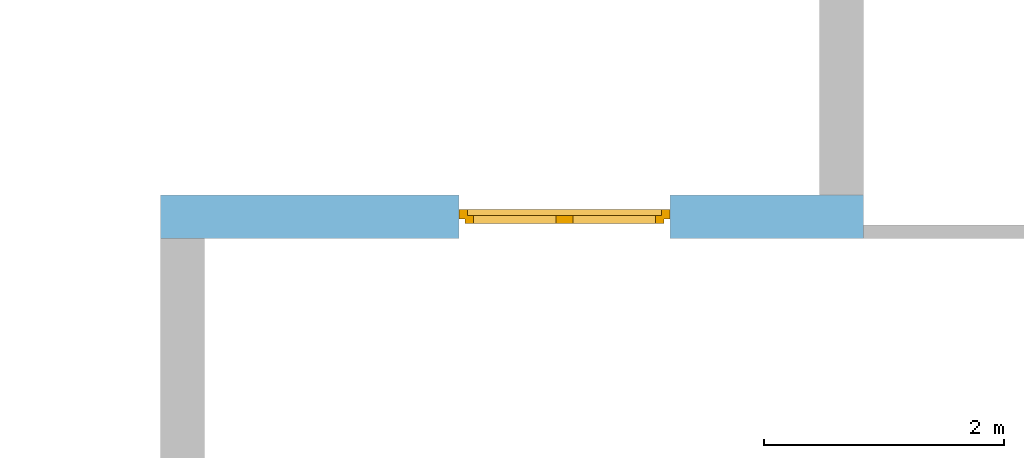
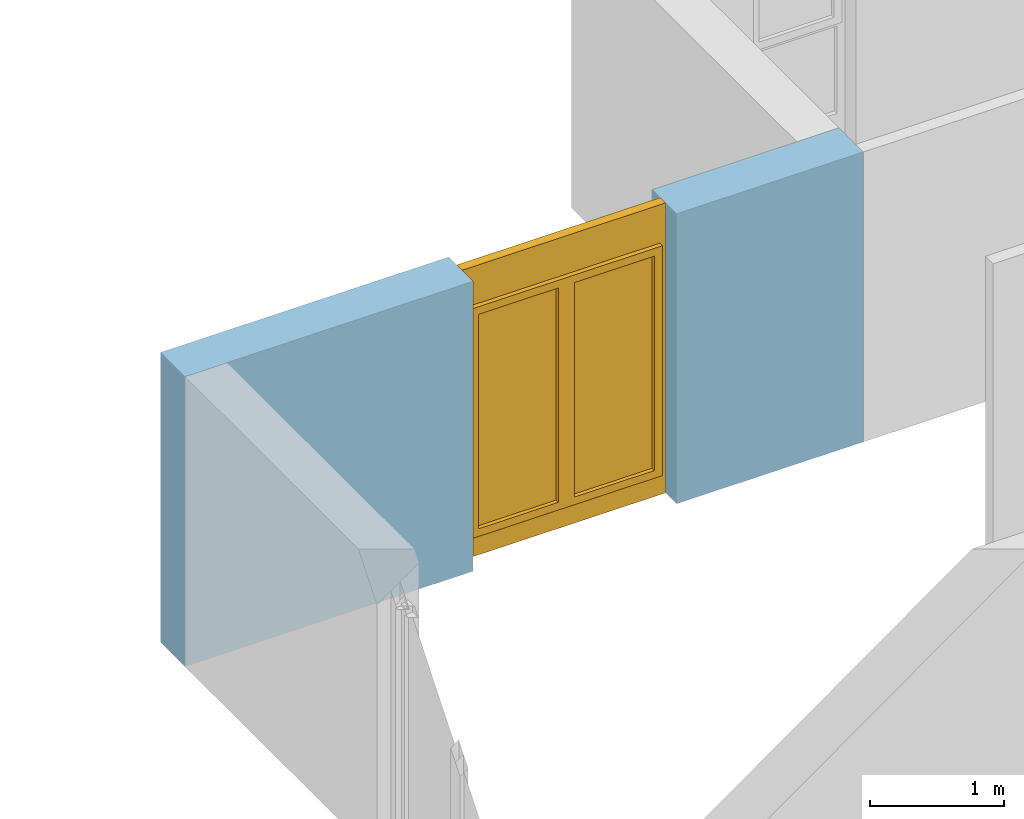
# One storey, part 17 of 42: 1 window, 1 opening, plus 1 element that does not belong to this part.
"""IFC2X3 building model written with IfcOpenShell, lengths in millimetres."""

from ifc_helpers import new_model, entity, si_unit, converted_unit, frame, frame_2d, origin, origin_with_axes, place, context, subcontext, project, spatial, rectangle, extrude, faceted_brep, material, layer, layer_set, layer_usage, type_object, element, fill, save


model = new_model("IFC2X3")

# Units and contexts
model_context = context("Model", 3, precision=1e-05, world=origin())
body_context = subcontext(model_context, "Body", "Model", "MODEL_VIEW")
ifc_project = project(units=[si_unit("LENGTHUNIT", "METRE", prefix="MILLI"), converted_unit("PLANEANGLEUNIT", "DEGREE", entity("IfcPlaneAngleMeasure", 0.0174532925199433), si_unit("PLANEANGLEUNIT", "RADIAN"), dimensions=[0, 0, 0, 0, 0, 0, 0]), si_unit("AREAUNIT", "SQUARE_METRE"), si_unit("VOLUMEUNIT", "CUBIC_METRE")], contexts=[model_context])

# Building, storey
building_placement = place(None, origin())
building = spatial("IfcBuilding", under=ifc_project, at=building_placement, Name="Gebäude", CompositionType="ELEMENT")
storey_placement = place(building_placement, frame((0.0, 0.0, 2730.0), z_axis=(0.0, 0.0, 1.0), x_axis=(1.0, 0.0, 0.0)))
storey = spatial("IfcBuildingStorey", under=building, at=storey_placement, Name="OG.- Grundriss", CompositionType="ELEMENT", Elevation=2730.0)

# Wall, opening, window
ifc_material_1 = material(Name="Poroton")
ifc_layer = layer(ifc_material_1, 365.0000000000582)
ifc_layer_set = layer_set([ifc_layer])
ifc_layer_usage = layer_usage(ifc_layer_set, "AXIS2", "POSITIVE", 0.0)
wall_placement = place(storey_placement, frame((154222.7928067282, 136274.8877324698, 0.0), z_axis=(0.0, 0.0, 1.0), x_axis=(-1.0, 0.0, 0.0)))
wall = element("IfcWallStandardCase", 1, at=wall_placement, inside=storey, material=ifc_layer_usage, Name="<Unnamed Element>", context=body_context, shape_type="SweptSolid", body=[
    extrude(rectangle(XDim=5865.0, YDim=365.0000000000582, at=frame_2d((2932.5, 182.5000000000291), x_axis=(1.0, 0.0))), origin_with_axes(), (0.0, 0.0, 1.0), 2650.0),
])
opening_placement = place(wall_placement, frame((1615.0, 0.0, 0.0), z_axis=(0.0, 1.0, 0.0), x_axis=(0.0, 0.0, 1.0)))
opening = element("IfcOpeningElement", 2, at=opening_placement, cuts=wall, Name="Fensteröffnung", ObjectType="Opening", context=body_context, shape_type="SweptSolid", body=[
    extrude(rectangle(XDim=2650.0, YDim=1760.0, at=frame_2d((1325.0, 880.0), x_axis=(1.0, 0.0))), origin_with_axes(), (0.0, 0.0, 1.0), 365.0000000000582),
])
ifc_material_2 = material()
window_style = type_object("IfcWindowStyle", Name="Fenster", ConstructionType="NOTDEFINED", OperationType="USERDEFINED", ParameterTakesPrecedence=False, Sizeable=False)
window_placement = place(opening_placement, frame((0.0, 0.0, 0.0), z_axis=(1.0, 0.0, 0.0), x_axis=(0.0, 1.0, 0.0)))
window = element("IfcWindow", 3, at=window_placement, inside=storey, type_object=window_style, material=ifc_material_2, Name="Fenster", OverallHeight=2650.0, OverallWidth=1760.0, context=body_context, shape_type="Brep", body=[
    faceted_brep([(9.797174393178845e-15, 200.0000000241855, 2650.0), (9.797174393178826e-15, 200.0000000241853, -2.449293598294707e-15), (69.99999999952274, 200.0000000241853, -2.449293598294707e-15), (69.99999999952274, 200.0000000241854, 2650.0), (0.0, 120.0000000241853, 2.449293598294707e-15), (1.914360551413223e-29, 120.0000000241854, 2650.0), (69.99999999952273, 120.0000000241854, 2650.0), (69.99999999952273, 120.0000000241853, 2.449293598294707e-15), (9.797174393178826e-15, 200.0000000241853, -2.449293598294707e-15), (9.797174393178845e-15, 200.0000000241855, 2650.0), (1.914360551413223e-29, 120.0000000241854, 2650.0), (0.0, 120.0000000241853, 2.449293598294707e-15), (69.99999999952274, 200.0000000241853, -2.449293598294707e-15), (9.797174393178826e-15, 200.0000000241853, -2.449293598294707e-15), (0.0, 120.0000000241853, 2.449293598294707e-15), (69.99999999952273, 120.0000000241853, 2.449293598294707e-15), (69.99999999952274, 200.0000000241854, 2650.0), (69.99999999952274, 200.0000000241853, -2.449293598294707e-15), (69.99999999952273, 120.0000000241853, 2.449293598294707e-15), (69.99999999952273, 120.0000000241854, 2650.0), (9.797174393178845e-15, 200.0000000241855, 2650.0), (69.99999999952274, 200.0000000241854, 2650.0), (69.99999999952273, 120.0000000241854, 2650.0), (1.914360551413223e-29, 120.0000000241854, 2650.0)], [[[0, 1, 2, 3]], [[4, 5, 6, 7]], [[8, 9, 10, 11]], [[12, 13, 14, 15]], [[16, 17, 18, 19]], [[20, 21, 22, 23]]], orient=[[False], [False], [False], [False], [False], [False]]),
    faceted_brep([(1690.000000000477, 200.0000000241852, 2650.0), (1690.000000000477, 200.0000000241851, -2.449293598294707e-15), (1760.0, 200.0000000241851, -2.449293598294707e-15), (1760.0, 200.0000000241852, 2650.0), (1690.000000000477, 120.0000000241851, 2.449293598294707e-15), (1690.000000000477, 120.0000000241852, 2650.0), (1760.0, 120.0000000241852, 2650.0), (1760.0, 120.0000000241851, 2.449293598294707e-15), (1690.000000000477, 200.0000000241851, -2.449293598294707e-15), (1690.000000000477, 200.0000000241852, 2650.0), (1690.000000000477, 120.0000000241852, 2650.0), (1690.000000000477, 120.0000000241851, 2.449293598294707e-15), (1760.0, 200.0000000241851, -2.449293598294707e-15), (1690.000000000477, 200.0000000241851, -2.449293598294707e-15), (1690.000000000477, 120.0000000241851, 2.449293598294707e-15), (1760.0, 120.0000000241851, 2.449293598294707e-15), (1760.0, 200.0000000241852, 2650.0), (1760.0, 200.0000000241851, -2.449293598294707e-15), (1760.0, 120.0000000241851, 2.449293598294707e-15), (1760.0, 120.0000000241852, 2650.0), (1690.000000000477, 200.0000000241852, 2650.0), (1760.0, 200.0000000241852, 2650.0), (1760.0, 120.0000000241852, 2650.0), (1690.000000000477, 120.0000000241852, 2650.0)], [[[0, 1, 2, 3]], [[4, 5, 6, 7]], [[8, 9, 10, 11]], [[12, 13, 14, 15]], [[16, 17, 18, 19]], [[20, 21, 22, 23]]], orient=[[False], [False], [False], [False], [False], [False]]),
    faceted_brep([(69.99999999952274, 200.0000000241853, 220.0), (69.99999999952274, 200.0000000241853, -2.449293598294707e-15), (1690.000000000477, 200.0000000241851, -2.449293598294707e-15), (1690.000000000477, 200.0000000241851, 220.0), (69.99999999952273, 120.0000000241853, 2.449293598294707e-15), (69.99999999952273, 120.0000000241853, 220.0), (1690.000000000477, 120.0000000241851, 220.0), (1690.000000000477, 120.0000000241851, 2.449293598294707e-15), (69.99999999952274, 200.0000000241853, -2.449293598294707e-15), (69.99999999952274, 200.0000000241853, 220.0), (69.99999999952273, 120.0000000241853, 220.0), (69.99999999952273, 120.0000000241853, 2.449293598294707e-15), (1690.000000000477, 200.0000000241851, -2.449293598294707e-15), (69.99999999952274, 200.0000000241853, -2.449293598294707e-15), (69.99999999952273, 120.0000000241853, 2.449293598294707e-15), (1690.000000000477, 120.0000000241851, 2.449293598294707e-15), (1690.000000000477, 200.0000000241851, 220.0), (1690.000000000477, 200.0000000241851, -2.449293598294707e-15), (1690.000000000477, 120.0000000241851, 2.449293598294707e-15), (1690.000000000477, 120.0000000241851, 220.0), (69.99999999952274, 200.0000000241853, 220.0), (1690.000000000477, 200.0000000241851, 220.0), (1690.000000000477, 120.0000000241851, 220.0), (69.99999999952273, 120.0000000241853, 220.0)], [[[0, 1, 2, 3]], [[4, 5, 6, 7]], [[8, 9, 10, 11]], [[12, 13, 14, 15]], [[16, 17, 18, 19]], [[20, 21, 22, 23]]], orient=[[False], [False], [False], [False], [False], [False]]),
    faceted_brep([(69.99999999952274, 200.0000000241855, 2650.0), (69.99999999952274, 200.0000000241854, 2280.0), (1690.000000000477, 200.0000000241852, 2280.0), (1690.000000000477, 200.0000000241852, 2650.0), (69.99999999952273, 120.0000000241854, 2280.0), (69.99999999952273, 120.0000000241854, 2650.0), (1690.000000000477, 120.0000000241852, 2650.0), (1690.000000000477, 120.0000000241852, 2280.0), (69.99999999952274, 200.0000000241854, 2280.0), (69.99999999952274, 200.0000000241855, 2650.0), (69.99999999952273, 120.0000000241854, 2650.0), (69.99999999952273, 120.0000000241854, 2280.0), (1690.000000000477, 200.0000000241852, 2280.0), (69.99999999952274, 200.0000000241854, 2280.0), (69.99999999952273, 120.0000000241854, 2280.0), (1690.000000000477, 120.0000000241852, 2280.0), (1690.000000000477, 200.0000000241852, 2650.0), (1690.000000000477, 200.0000000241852, 2280.0), (1690.000000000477, 120.0000000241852, 2280.0), (1690.000000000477, 120.0000000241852, 2650.0), (69.99999999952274, 200.0000000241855, 2650.0), (1690.000000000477, 200.0000000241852, 2650.0), (1690.000000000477, 120.0000000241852, 2650.0), (69.99999999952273, 120.0000000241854, 2650.0)], [[[0, 1, 2, 3]], [[4, 5, 6, 7]], [[8, 9, 10, 11]], [[12, 13, 14, 15]], [[16, 17, 18, 19]], [[20, 21, 22, 23]]], orient=[[False], [False], [False], [False], [False], [False]]),
    faceted_brep([(49.99999999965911, 240.0000000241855, 2300.0), (49.99999999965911, 240.0000000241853, 200.0), (119.9999999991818, 240.0000000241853, 200.0), (119.9999999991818, 240.0000000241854, 2300.0), (49.9999999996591, 170.0000000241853, 200.0), (49.9999999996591, 170.0000000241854, 2300.0), (119.9999999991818, 170.0000000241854, 2300.0), (119.9999999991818, 170.0000000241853, 200.0), (49.99999999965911, 240.0000000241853, 200.0), (49.99999999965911, 240.0000000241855, 2300.0), (49.9999999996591, 170.0000000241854, 2300.0), (49.9999999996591, 170.0000000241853, 200.0), (119.9999999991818, 240.0000000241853, 200.0), (49.99999999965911, 240.0000000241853, 200.0), (49.9999999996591, 170.0000000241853, 200.0), (119.9999999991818, 170.0000000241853, 200.0), (119.9999999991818, 240.0000000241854, 2300.0), (119.9999999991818, 240.0000000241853, 200.0), (119.9999999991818, 170.0000000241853, 200.0), (119.9999999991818, 170.0000000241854, 2300.0), (49.99999999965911, 240.0000000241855, 2300.0), (119.9999999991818, 240.0000000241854, 2300.0), (119.9999999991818, 170.0000000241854, 2300.0), (49.9999999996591, 170.0000000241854, 2300.0)], [[[0, 1, 2, 3]], [[4, 5, 6, 7]], [[8, 9, 10, 11]], [[12, 13, 14, 15]], [[16, 17, 18, 19]], [[20, 21, 22, 23]]], orient=[[False], [False], [False], [False], [False], [False]]),
    faceted_brep([(809.5000000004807, 240.0000000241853, 2300.0), (809.5000000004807, 240.0000000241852, 200.0), (879.5000000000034, 240.0000000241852, 200.0), (879.5000000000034, 240.0000000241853, 2300.0), (809.5000000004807, 170.0000000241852, 200.0), (809.5000000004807, 170.0000000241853, 2300.0), (879.5000000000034, 170.0000000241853, 2300.0), (879.5000000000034, 170.0000000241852, 200.0), (809.5000000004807, 240.0000000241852, 200.0), (809.5000000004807, 240.0000000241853, 2300.0), (809.5000000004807, 170.0000000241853, 2300.0), (809.5000000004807, 170.0000000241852, 200.0), (879.5000000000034, 240.0000000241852, 200.0), (809.5000000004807, 240.0000000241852, 200.0), (809.5000000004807, 170.0000000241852, 200.0), (879.5000000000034, 170.0000000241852, 200.0), (879.5000000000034, 240.0000000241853, 2300.0), (879.5000000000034, 240.0000000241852, 200.0), (879.5000000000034, 170.0000000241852, 200.0), (879.5000000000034, 170.0000000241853, 2300.0), (809.5000000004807, 240.0000000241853, 2300.0), (879.5000000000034, 240.0000000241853, 2300.0), (879.5000000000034, 170.0000000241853, 2300.0), (809.5000000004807, 170.0000000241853, 2300.0)], [[[0, 1, 2, 3]], [[4, 5, 6, 7]], [[8, 9, 10, 11]], [[12, 13, 14, 15]], [[16, 17, 18, 19]], [[20, 21, 22, 23]]], orient=[[False], [False], [False], [False], [False], [False]]),
    faceted_brep([(119.9999999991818, 240.0000000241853, 270.0), (119.9999999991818, 240.0000000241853, 200.0), (809.5000000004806, 240.0000000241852, 200.0), (809.5000000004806, 240.0000000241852, 270.0), (119.9999999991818, 170.0000000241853, 200.0), (119.9999999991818, 170.0000000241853, 270.0), (809.5000000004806, 170.0000000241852, 270.0), (809.5000000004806, 170.0000000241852, 200.0), (119.9999999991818, 240.0000000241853, 200.0), (119.9999999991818, 240.0000000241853, 270.0), (119.9999999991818, 170.0000000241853, 270.0), (119.9999999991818, 170.0000000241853, 200.0), (809.5000000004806, 240.0000000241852, 200.0), (119.9999999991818, 240.0000000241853, 200.0), (119.9999999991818, 170.0000000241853, 200.0), (809.5000000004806, 170.0000000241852, 200.0), (809.5000000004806, 240.0000000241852, 270.0), (809.5000000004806, 240.0000000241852, 200.0), (809.5000000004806, 170.0000000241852, 200.0), (809.5000000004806, 170.0000000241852, 270.0), (119.9999999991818, 240.0000000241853, 270.0), (809.5000000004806, 240.0000000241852, 270.0), (809.5000000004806, 170.0000000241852, 270.0), (119.9999999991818, 170.0000000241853, 270.0)], [[[0, 1, 2, 3]], [[4, 5, 6, 7]], [[8, 9, 10, 11]], [[12, 13, 14, 15]], [[16, 17, 18, 19]], [[20, 21, 22, 23]]], orient=[[False], [False], [False], [False], [False], [False]]),
    faceted_brep([(119.9999999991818, 240.0000000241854, 2300.0), (119.9999999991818, 240.0000000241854, 2230.0), (809.5000000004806, 240.0000000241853, 2230.0), (809.5000000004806, 240.0000000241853, 2300.0), (119.9999999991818, 170.0000000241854, 2230.0), (119.9999999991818, 170.0000000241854, 2300.0), (809.5000000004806, 170.0000000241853, 2300.0), (809.5000000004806, 170.0000000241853, 2230.0), (119.9999999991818, 240.0000000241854, 2230.0), (119.9999999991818, 240.0000000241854, 2300.0), (119.9999999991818, 170.0000000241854, 2300.0), (119.9999999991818, 170.0000000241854, 2230.0), (809.5000000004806, 240.0000000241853, 2230.0), (119.9999999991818, 240.0000000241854, 2230.0), (119.9999999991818, 170.0000000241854, 2230.0), (809.5000000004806, 170.0000000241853, 2230.0), (809.5000000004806, 240.0000000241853, 2300.0), (809.5000000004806, 240.0000000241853, 2230.0), (809.5000000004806, 170.0000000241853, 2230.0), (809.5000000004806, 170.0000000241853, 2300.0), (119.9999999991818, 240.0000000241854, 2300.0), (809.5000000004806, 240.0000000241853, 2300.0), (809.5000000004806, 170.0000000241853, 2300.0), (119.9999999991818, 170.0000000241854, 2300.0)], [[[0, 1, 2, 3]], [[4, 5, 6, 7]], [[8, 9, 10, 11]], [[12, 13, 14, 15]], [[16, 17, 18, 19]], [[20, 21, 22, 23]]], orient=[[False], [False], [False], [False], [False], [False]]),
    faceted_brep([(880.4999999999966, 240.0000000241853, 2300.0), (880.4999999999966, 240.0000000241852, 200.0), (950.4999999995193, 240.0000000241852, 200.0), (950.4999999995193, 240.0000000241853, 2300.0), (880.4999999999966, 170.0000000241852, 200.0), (880.4999999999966, 170.0000000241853, 2300.0), (950.4999999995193, 170.0000000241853, 2300.0), (950.4999999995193, 170.0000000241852, 200.0), (880.4999999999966, 240.0000000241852, 200.0), (880.4999999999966, 240.0000000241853, 2300.0), (880.4999999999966, 170.0000000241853, 2300.0), (880.4999999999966, 170.0000000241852, 200.0), (950.4999999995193, 240.0000000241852, 200.0), (880.4999999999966, 240.0000000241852, 200.0), (880.4999999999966, 170.0000000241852, 200.0), (950.4999999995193, 170.0000000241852, 200.0), (950.4999999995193, 240.0000000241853, 2300.0), (950.4999999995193, 240.0000000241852, 200.0), (950.4999999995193, 170.0000000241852, 200.0), (950.4999999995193, 170.0000000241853, 2300.0), (880.4999999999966, 240.0000000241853, 2300.0), (950.4999999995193, 240.0000000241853, 2300.0), (950.4999999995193, 170.0000000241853, 2300.0), (880.4999999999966, 170.0000000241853, 2300.0)], [[[0, 1, 2, 3]], [[4, 5, 6, 7]], [[8, 9, 10, 11]], [[12, 13, 14, 15]], [[16, 17, 18, 19]], [[20, 21, 22, 23]]], orient=[[False], [False], [False], [False], [False], [False]]),
    faceted_brep([(1640.000000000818, 240.0000000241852, 2300.0), (1640.000000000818, 240.0000000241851, 200.0), (1710.000000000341, 240.0000000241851, 200.0), (1710.000000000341, 240.0000000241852, 2300.0), (1640.000000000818, 170.0000000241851, 200.0), (1640.000000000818, 170.0000000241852, 2300.0), (1710.000000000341, 170.0000000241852, 2300.0), (1710.000000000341, 170.0000000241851, 200.0), (1640.000000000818, 240.0000000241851, 200.0), (1640.000000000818, 240.0000000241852, 2300.0), (1640.000000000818, 170.0000000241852, 2300.0), (1640.000000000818, 170.0000000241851, 200.0), (1710.000000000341, 240.0000000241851, 200.0), (1640.000000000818, 240.0000000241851, 200.0), (1640.000000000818, 170.0000000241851, 200.0), (1710.000000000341, 170.0000000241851, 200.0), (1710.000000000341, 240.0000000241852, 2300.0), (1710.000000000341, 240.0000000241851, 200.0), (1710.000000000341, 170.0000000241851, 200.0), (1710.000000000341, 170.0000000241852, 2300.0), (1640.000000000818, 240.0000000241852, 2300.0), (1710.000000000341, 240.0000000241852, 2300.0), (1710.000000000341, 170.0000000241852, 2300.0), (1640.000000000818, 170.0000000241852, 2300.0)], [[[0, 1, 2, 3]], [[4, 5, 6, 7]], [[8, 9, 10, 11]], [[12, 13, 14, 15]], [[16, 17, 18, 19]], [[20, 21, 22, 23]]], orient=[[False], [False], [False], [False], [False], [False]]),
    faceted_brep([(950.4999999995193, 240.0000000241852, 270.0), (950.4999999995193, 240.0000000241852, 200.0), (1640.000000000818, 240.0000000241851, 200.0), (1640.000000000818, 240.0000000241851, 270.0), (950.4999999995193, 170.0000000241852, 200.0), (950.4999999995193, 170.0000000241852, 270.0), (1640.000000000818, 170.0000000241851, 270.0), (1640.000000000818, 170.0000000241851, 200.0), (950.4999999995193, 240.0000000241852, 200.0), (950.4999999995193, 240.0000000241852, 270.0), (950.4999999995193, 170.0000000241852, 270.0), (950.4999999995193, 170.0000000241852, 200.0), (1640.000000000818, 240.0000000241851, 200.0), (950.4999999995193, 240.0000000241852, 200.0), (950.4999999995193, 170.0000000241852, 200.0), (1640.000000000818, 170.0000000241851, 200.0), (1640.000000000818, 240.0000000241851, 270.0), (1640.000000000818, 240.0000000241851, 200.0), (1640.000000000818, 170.0000000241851, 200.0), (1640.000000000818, 170.0000000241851, 270.0), (950.4999999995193, 240.0000000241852, 270.0), (1640.000000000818, 240.0000000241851, 270.0), (1640.000000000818, 170.0000000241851, 270.0), (950.4999999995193, 170.0000000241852, 270.0)], [[[0, 1, 2, 3]], [[4, 5, 6, 7]], [[8, 9, 10, 11]], [[12, 13, 14, 15]], [[16, 17, 18, 19]], [[20, 21, 22, 23]]], orient=[[False], [False], [False], [False], [False], [False]]),
    faceted_brep([(950.4999999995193, 240.0000000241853, 2300.0), (950.4999999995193, 240.0000000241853, 2230.0), (1640.000000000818, 240.0000000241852, 2230.0), (1640.000000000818, 240.0000000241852, 2300.0), (950.4999999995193, 170.0000000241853, 2230.0), (950.4999999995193, 170.0000000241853, 2300.0), (1640.000000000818, 170.0000000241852, 2300.0), (1640.000000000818, 170.0000000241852, 2230.0), (950.4999999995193, 240.0000000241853, 2230.0), (950.4999999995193, 240.0000000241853, 2300.0), (950.4999999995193, 170.0000000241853, 2300.0), (950.4999999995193, 170.0000000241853, 2230.0), (1640.000000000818, 240.0000000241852, 2230.0), (950.4999999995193, 240.0000000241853, 2230.0), (950.4999999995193, 170.0000000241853, 2230.0), (1640.000000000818, 170.0000000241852, 2230.0), (1640.000000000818, 240.0000000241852, 2300.0), (1640.000000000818, 240.0000000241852, 2230.0), (1640.000000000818, 170.0000000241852, 2230.0), (1640.000000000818, 170.0000000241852, 2300.0), (950.4999999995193, 240.0000000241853, 2300.0), (1640.000000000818, 240.0000000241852, 2300.0), (1640.000000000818, 170.0000000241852, 2300.0), (950.4999999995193, 170.0000000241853, 2300.0)], [[[0, 1, 2, 3]], [[4, 5, 6, 7]], [[8, 9, 10, 11]], [[12, 13, 14, 15]], [[16, 17, 18, 19]], [[20, 21, 22, 23]]], orient=[[False], [False], [False], [False], [False], [False]]),
    faceted_brep([(119.9999999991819, 205.0000000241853, 270.0), (809.5000000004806, 205.0000000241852, 270.0), (809.5000000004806, 205.0000000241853, 2229.999999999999), (119.9999999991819, 205.0000000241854, 2229.999999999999), (119.9999999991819, 204.0000000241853, 270.0), (119.9999999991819, 204.0000000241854, 2229.999999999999), (809.5000000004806, 204.0000000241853, 2229.999999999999), (809.5000000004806, 204.0000000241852, 270.0), (119.9999999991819, 205.0000000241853, 270.0), (119.9999999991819, 204.0000000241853, 270.0), (809.5000000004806, 204.0000000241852, 270.0), (809.5000000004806, 205.0000000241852, 270.0), (809.5000000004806, 205.0000000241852, 270.0), (809.5000000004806, 204.0000000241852, 270.0), (809.5000000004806, 204.0000000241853, 2229.999999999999), (809.5000000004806, 205.0000000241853, 2229.999999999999), (809.5000000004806, 205.0000000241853, 2229.999999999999), (809.5000000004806, 204.0000000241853, 2229.999999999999), (119.9999999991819, 204.0000000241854, 2229.999999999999), (119.9999999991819, 205.0000000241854, 2229.999999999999), (119.9999999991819, 205.0000000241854, 2229.999999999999), (119.9999999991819, 204.0000000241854, 2229.999999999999), (119.9999999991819, 204.0000000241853, 270.0), (119.9999999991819, 205.0000000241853, 270.0)], [[[0, 1, 2, 3]], [[4, 5, 6, 7]], [[8, 9, 10, 11]], [[12, 13, 14, 15]], [[16, 17, 18, 19]], [[20, 21, 22, 23]]], orient=[[False], [False], [False], [False], [False], [False]]),
    faceted_brep([(950.4999999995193, 205.0000000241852, 270.0), (1640.000000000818, 205.0000000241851, 270.0), (1640.000000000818, 205.0000000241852, 2229.999999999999), (950.4999999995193, 205.0000000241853, 2229.999999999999), (950.4999999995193, 204.0000000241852, 270.0), (950.4999999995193, 204.0000000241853, 2229.999999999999), (1640.000000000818, 204.0000000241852, 2229.999999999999), (1640.000000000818, 204.0000000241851, 270.0), (950.4999999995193, 205.0000000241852, 270.0), (950.4999999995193, 204.0000000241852, 270.0), (1640.000000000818, 204.0000000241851, 270.0), (1640.000000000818, 205.0000000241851, 270.0), (1640.000000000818, 205.0000000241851, 270.0), (1640.000000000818, 204.0000000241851, 270.0), (1640.000000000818, 204.0000000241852, 2229.999999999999), (1640.000000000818, 205.0000000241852, 2229.999999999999), (1640.000000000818, 205.0000000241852, 2229.999999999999), (1640.000000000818, 204.0000000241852, 2229.999999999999), (950.4999999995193, 204.0000000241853, 2229.999999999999), (950.4999999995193, 205.0000000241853, 2229.999999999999), (950.4999999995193, 205.0000000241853, 2229.999999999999), (950.4999999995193, 204.0000000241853, 2229.999999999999), (950.4999999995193, 204.0000000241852, 270.0), (950.4999999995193, 205.0000000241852, 270.0)], [[[0, 1, 2, 3]], [[4, 5, 6, 7]], [[8, 9, 10, 11]], [[12, 13, 14, 15]], [[16, 17, 18, 19]], [[20, 21, 22, 23]]], orient=[[False], [False], [False], [False], [False], [False]]),
])
fill(opening, window)

save(model, "model.ifc")
